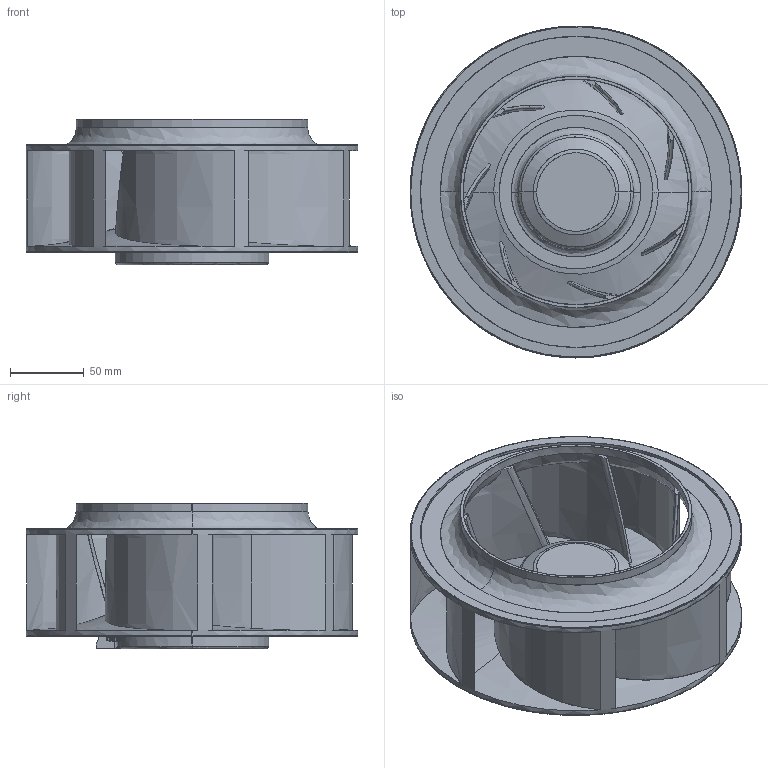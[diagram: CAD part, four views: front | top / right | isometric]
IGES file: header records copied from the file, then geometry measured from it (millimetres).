
Start section: SolidWorks IGES file using analytic representation for surfaces
Bounding box: 225 x 225 x 99 mm (x, y, z)
Surface area: 260275.7 mm2 (no closed solid volume)
Topology: 0 solids, 0 shells, 177 faces, 3651 edges, 3651 vertices
Faces by surface type: bspline 106, revolution 71
